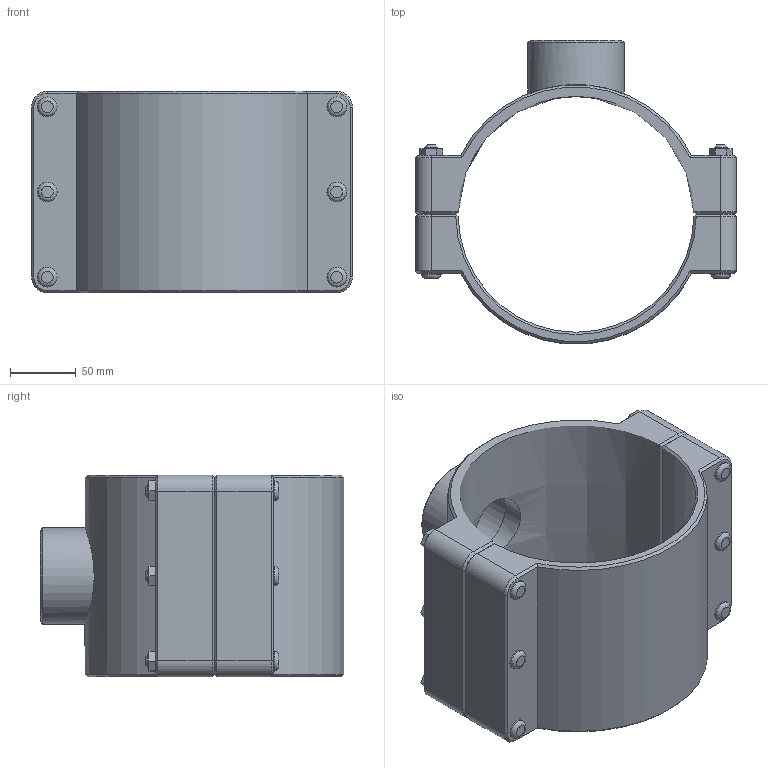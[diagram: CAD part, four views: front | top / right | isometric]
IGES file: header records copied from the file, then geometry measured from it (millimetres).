
Global section: file name: 160760180020_160860180020.ipt; native system: Autodesk Inventor 2015; preprocessor: unknown; author: KIM; date: 20170618.093630; units: millimetre
Bounding box: 245 x 231.65 x 154 mm (x, y, z)
Volume: 1612851.5 mm3; surface area: 249276.6 mm2
Topology: 1 solids, 1 shells, 169 faces, 394 edges, 249 vertices
Faces by surface type: plane 100, cylinder 29, cone 27, revolution 13
Full cylindrical faces by diameter (mm): 10 x6, 15 x12, 73.653 x1
